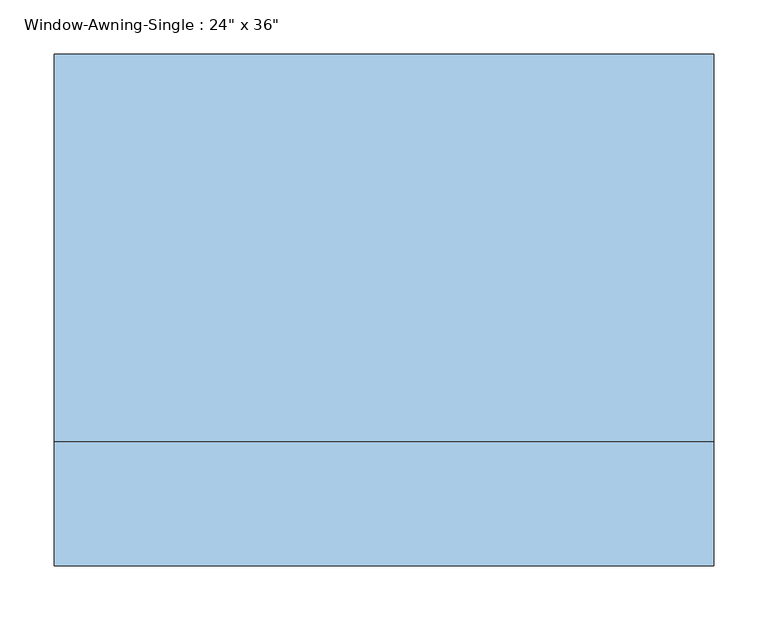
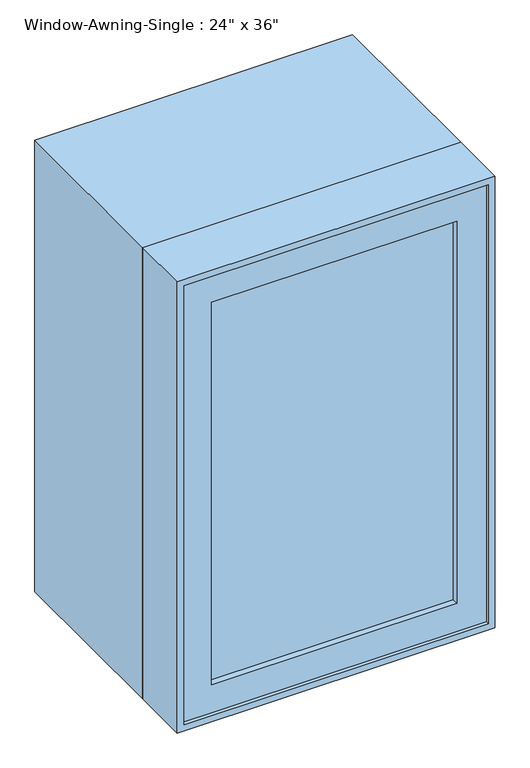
"""IFC4 building model written with IfcOpenShell, lengths in millimetres: window geometry."""

from ifc_helpers import new_model, si_unit, frame, origin, place, context, project, spatial, polyline, outline, extrude, faceted_brep, source, transform, mapped, element, save


def window_2d4a29d0(model_context):
    return source(origin(), model_context, "Body", "SolidModel", [
        faceted_brep([(292.1, -195.2625, 927.1), (-292.1, -195.2625, 927.1), (-292.1, -246.0625, 927.1), (292.1, -246.0625, 927.1), (273.05, -131.7625, 946.15), (-273.05, -131.7625, 946.15), (-273.05, -195.2625, 946.15), (273.05, -195.2625, 946.15), (304.8, -246.0625, 914.4), (-304.8, -246.0625, 914.4), (-304.8, -131.7625, 914.4), (304.8, -131.7625, 914.4), (-292.1, -195.2625, 1816.1), (-292.1, -246.0625, 1816.1), (-273.05, -131.7625, 1797.05), (-273.05, -195.2625, 1797.05), (-304.8, -246.0625, 1828.8), (-304.8, -131.7625, 1828.8), (292.1, -195.2625, 1816.1), (292.1, -246.0625, 1816.1), (273.05, -131.7625, 1797.05), (273.05, -195.2625, 1797.05), (304.8, -246.0625, 1828.8), (304.8, -131.7625, 1828.8)], [[[0, 1, 2, 3]], [[4, 5, 6, 7]], [[8, 9, 10, 11]], [[1, 12, 13, 2]], [[5, 14, 15, 6]], [[9, 16, 17, 10]], [[12, 18, 19, 13]], [[14, 20, 21, 15]], [[16, 22, 23, 17]], [[9, 8, 22, 16], [3, 2, 13, 19]], [[18, 0, 3, 19]], [[1, 0, 18, 12], [7, 6, 15, 21]], [[20, 4, 7, 21]], [[11, 10, 17, 23], [5, 4, 20, 14]], [[22, 8, 11, 23]]]),
        extrude(outline(polyline([(234.95, -227.0125), (-234.95, -227.0125), (-234.95, -220.6625), (234.95, -220.6625), (234.95, -227.0125)])), frame((0.0, 0.0, 984.25), z_axis=(0.0, 0.0, 1.0), x_axis=(1.0, 0.0, 0.0)), (0.0, 0.0, 1.0), 774.7),
        extrude(outline(polyline([(234.95, -214.3125), (-234.95, -214.3125), (-234.95, -207.9625), (234.95, -207.9625), (234.95, -214.3125)])), frame((0.0, 0.0, 984.25), z_axis=(0.0, 0.0, 1.0), x_axis=(1.0, 0.0, 0.0)), (0.0, 0.0, 1.0), 774.7),
        extrude(outline(polyline([(1816.1, -292.1), (927.1, -292.1), (927.1, 292.1), (1816.1, 292.1), (1816.1, -292.1)]), holes=[polyline([(984.25, -234.95), (1758.95, -234.95), (1758.95, 234.95), (984.25, 234.95), (984.25, -234.95)])]), frame((0.0, -239.7125, 0.0), z_axis=(0.0, 1.0, 0.0), x_axis=(0.0, 0.0, 1.0)), (0.0, 0.0, 1.0), 44.45),
        extrude(outline(polyline([(1828.8, -304.8), (914.4, -304.8), (914.4, 304.8), (1828.8, 304.8), (1828.8, -304.8)]), holes=[polyline([(1809.75, -285.75), (1809.75, 285.75), (933.45, 285.75), (933.45, -285.75), (1809.75, -285.75)])]), frame((0.0, -131.7625, 0.0), z_axis=(0.0, 1.0, 0.0), x_axis=(0.0, 0.0, 1.0)), (0.0, 0.0, 1.0), 358.775),
    ])


if __name__ == "__main__":
    model = new_model("IFC4")
    model_context = context("Model", 3, world=origin())
    ifc_project = project(units=[si_unit("LENGTHUNIT", "METRE", prefix="MILLI")], contexts=[model_context])
    site = spatial("IfcSite", under=ifc_project)
    building = spatial("IfcBuilding", under=site)
    placement = place(None, origin())
    window_shape = window_2d4a29d0(model_context)
    element("IfcWindow", 1, ObjectType="Window-Awning-Single : 24\" x 36\"", at=placement, inside=building, context=model_context, shape_type="MappedRepresentation", body=[
        mapped(window_shape, transform((0.0, 0.0, 0.0), x_axis=(1.0, 0.0, 0.0), y_axis=(0.0, 1.0, 0.0), z_axis=(0.0, 0.0, 1.0))),
    ])
    save(model, "model.ifc")
